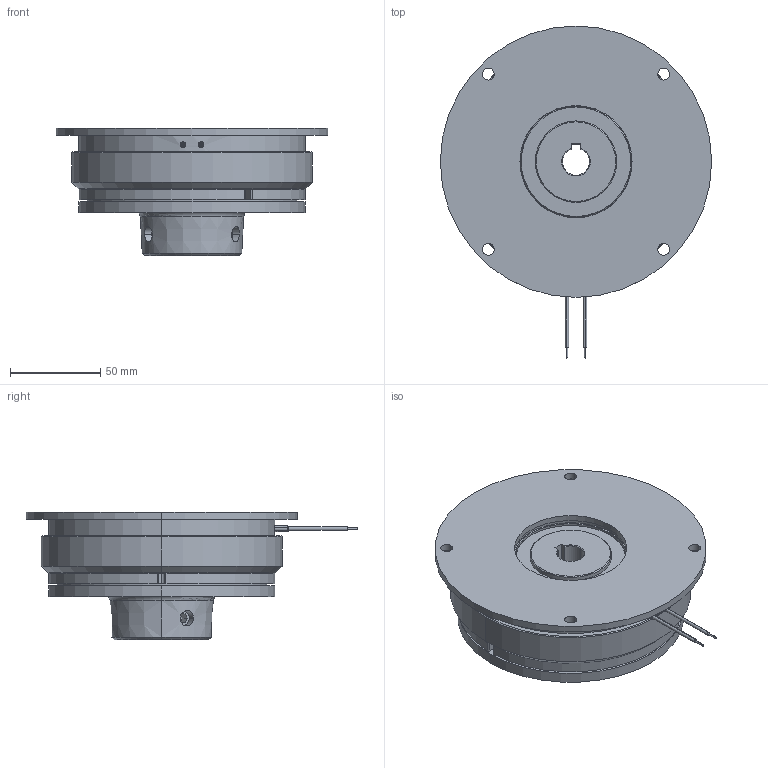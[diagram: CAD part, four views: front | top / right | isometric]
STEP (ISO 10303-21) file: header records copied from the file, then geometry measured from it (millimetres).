
FILE_DESCRIPTION (( 'STEP AP214' ), '1' );
FILE_NAME ('dr_bk_0903-130_mu.STEP', '2021-11-17T08:57:18', ( '' ), ( '' ), 'SwSTEP 2.0', 'SolidWorks 2019', '' );
FILE_SCHEMA (( 'AUTOMOTIVE_DESIGN' ));
Length unit declared in the file: millimetre
Products named in the file (11): 10069132_000; 10068856_000; 10068857_000; 10068853_000_Montagezustand; 10068848_000_eingebaut in 09.P1.010-0177 Ankerteil; 10069118_000; 10068854_000; 10068851_000; dr_bk_0903-130_mu; 10069167_000_M 10 x 16; 10068852_000
Assembly tree (21 placements, depth 4):
  dr_bk_0903-130_mu
    10069118_000
    10069132_000
    10068856_000
      10068857_000
      10068852_000
        10068851_000
        10068854_000
        10068853_000_Montagezustand  x3
        10068848_000_eingebaut in 09.P1.010-0177 Ankerteil  x3
      10069167_000_M 10 x 16  x2
      10068848_000_eingebaut in 09.P1.010-0177 Ankerteil  x3
      10068853_000_Montagezustand  x3
Bounding box: 150 x 183.5 x 70.7 mm (x, y, z)
Volume: 608861.1 mm3; surface area: 164105.2 mm2
Topology: 21 solids, 21 shells, 677 faces, 1696 edges, 1072 vertices
Faces by surface type: cylinder 201, plane 196, bspline 132, cone 110, torus 26, sphere 12
Entity records: 26263 total; most frequent: CARTESIAN_POINT 12095, ORIENTED_EDGE 2756, DIRECTION 2254, EDGE_CURVE 1378, VERTEX_POINT 893, AXIS2_PLACEMENT_3D 829, EDGE_LOOP 617, LINE 596
